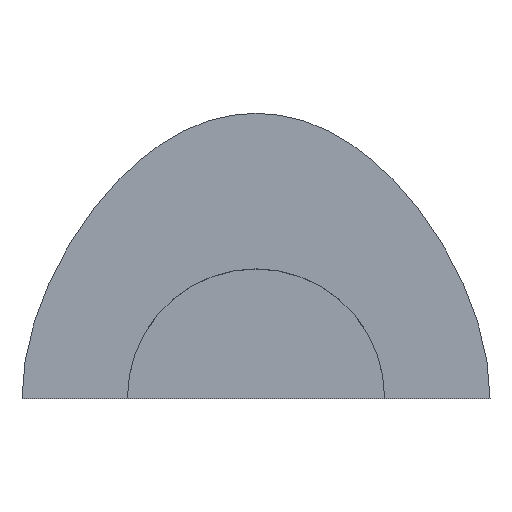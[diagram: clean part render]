
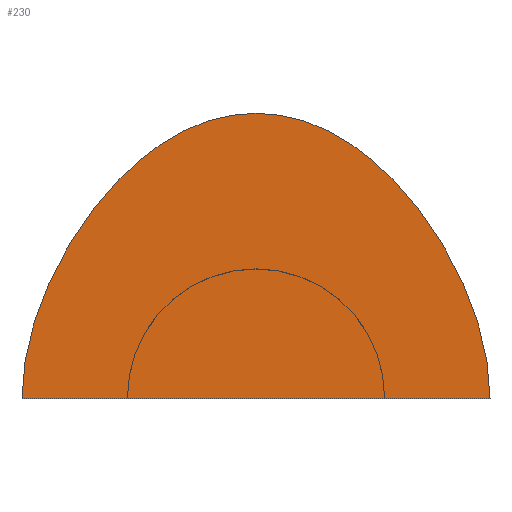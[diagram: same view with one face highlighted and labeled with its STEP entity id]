
A CAD part, top view. The second image highlights one B-rep face of the part: STEP entity #230.
In plain terms, the highlighted planar face has unit normal (0, 0, 1).
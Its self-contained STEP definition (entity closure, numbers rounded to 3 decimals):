
#193=CARTESIAN_POINT('Axis2P3D Location',(0.,44.954,0.)) ;
#198=CARTESIAN_POINT('Line Origine',(0.,0.,0.)) ;
#202=CARTESIAN_POINT('Vertex',(-91.,0.,0.)) ;
#204=CARTESIAN_POINT('Vertex',(91.,0.,0.)) ;
#208=CARTESIAN_POINT('Control Point',(0.,111.,0.)) ;
#209=CARTESIAN_POINT('Control Point',(28.707,111.,0.)) ;
#210=CARTESIAN_POINT('Control Point',(55.045,94.015,0.)) ;
#211=CARTESIAN_POINT('Control Point',(79.015,60.045,0.)) ;
#212=CARTESIAN_POINT('Control Point',(91.,28.707,0.)) ;
#213=CARTESIAN_POINT('Control Point',(91.,0.,0.)) ;
#214=CARTESIAN_POINT('Vertex',(0.,111.,0.)) ;
#218=CARTESIAN_POINT('Control Point',(0.,111.,0.)) ;
#219=CARTESIAN_POINT('Control Point',(-28.707,111.,0.)) ;
#220=CARTESIAN_POINT('Control Point',(-55.045,94.015,0.)) ;
#221=CARTESIAN_POINT('Control Point',(-79.015,60.045,0.)) ;
#222=CARTESIAN_POINT('Control Point',(-91.,28.707,0.)) ;
#223=CARTESIAN_POINT('Control Point',(-91.,0.,0.)) ;
#194=DIRECTION('Axis2P3D Direction',(0.,0.,1.)) ;
#195=DIRECTION('Axis2P3D XDirection',(1.,0.,0.)) ;
#199=DIRECTION('Vector Direction',(1.,0.,0.)) ;
#196=AXIS2_PLACEMENT_3D('Plane Axis2P3D',#193,#194,#195) ;
#226=ORIENTED_EDGE('',*,*,#206,.T.) ;
#227=ORIENTED_EDGE('',*,*,#216,.T.) ;
#228=ORIENTED_EDGE('',*,*,#224,.T.) ;
#200=VECTOR('Line Direction',#199,1.) ;
#230=ADVANCED_FACE('Fill.1',(#229),#197,.T.) ;
#207=B_SPLINE_CURVE_WITH_KNOTS('',5,(#208,#209,#210,#211,#212,#213),.UNSPECIFIED.,.F.,.U.,(6,6),(0.,143.534),.UNSPECIFIED.) ;
#217=B_SPLINE_CURVE_WITH_KNOTS('',5,(#218,#219,#220,#221,#222,#223),.UNSPECIFIED.,.F.,.U.,(6,6),(0.,143.534),.UNSPECIFIED.) ;
#206=EDGE_CURVE('',#203,#205,#201,.T.) ;
#216=EDGE_CURVE('',#205,#215,#207,.F.) ;
#224=EDGE_CURVE('',#215,#203,#217,.T.) ;
#225=EDGE_LOOP('',(#226,#227,#228)) ;
#229=FACE_OUTER_BOUND('',#225,.T.) ;
#201=LINE('Line',#198,#200) ;
#197=PLANE('',#196) ;
#203=VERTEX_POINT('',#202) ;
#205=VERTEX_POINT('',#204) ;
#215=VERTEX_POINT('',#214) ;
